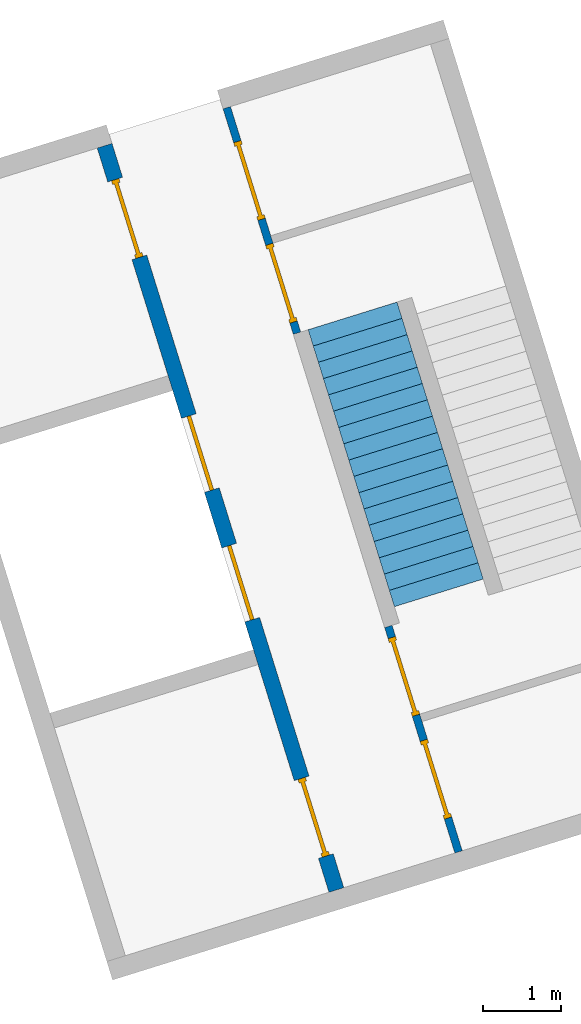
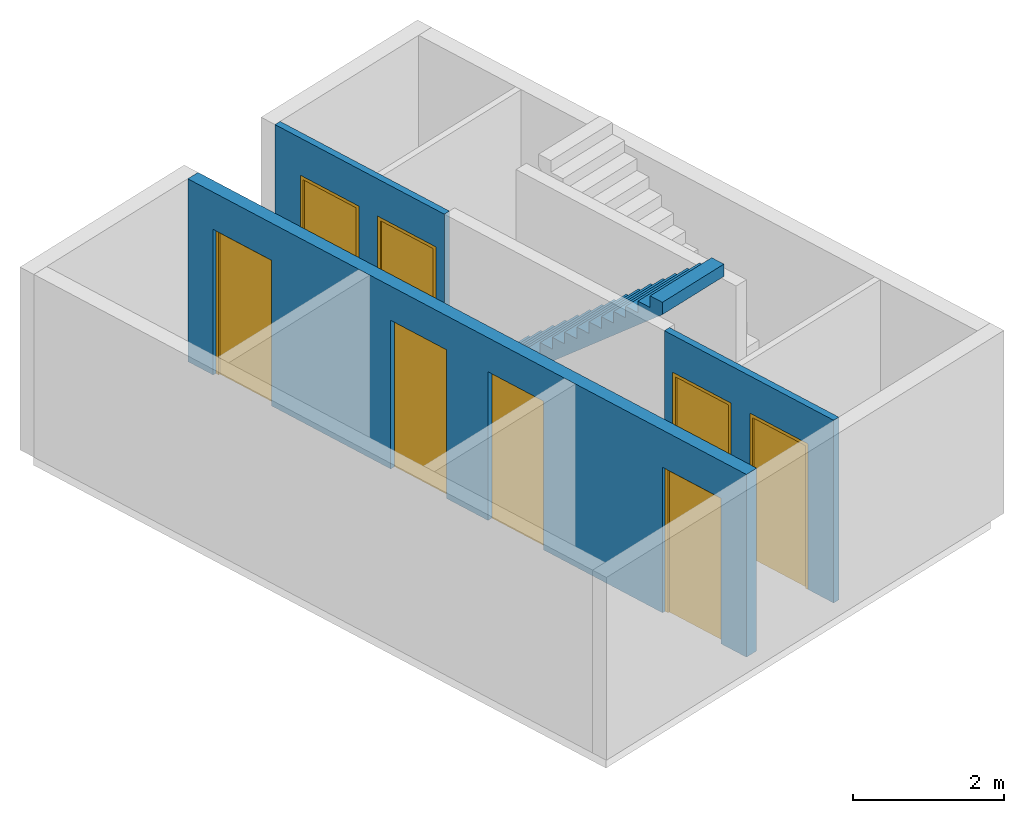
# One storey, part 2 of 3: 8 doors, 3 walls, 1 stair flight, 8 openings, 1 element without a shape of its own.
"""IFC4 building model written with IfcOpenShell, lengths in metres."""

from ifc_helpers import new_model, entity, si_unit, converted_unit, direction, frame, origin, place, context, subcontext, project, spatial, indexed_curve, outline, extrude, polygons, source, transform, mapped, material, constituent, constituent_set, type_object, type_shapes, element, fill, aggregate, save


model = new_model("IFC4")

# Units and contexts
model_context = context("Model", 3, precision=1e-05, world=origin(), true_north=direction((6.12323399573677e-17, 1.0)))
body_context = subcontext(model_context, "Body", "Model", "MODEL_VIEW")
ifc_project = project(units=[si_unit("LENGTHUNIT", "METRE"), si_unit("AREAUNIT", "SQUARE_METRE"), si_unit("VOLUMEUNIT", "CUBIC_METRE"), converted_unit("PLANEANGLEUNIT", "DEGREE", entity("IfcPlaneAngleMeasure", 0.0174532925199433), si_unit("PLANEANGLEUNIT", "RADIAN"), dimensions=[0, 0, 0, 0, 0, 0, 0])], contexts=[model_context])

# Site, building, storey
site_placement = place(None, frame((13.1347999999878, 11.9886000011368, 0.0), z_axis=(0.0, 0.0, 1.0), x_axis=(0.954770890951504, 0.297342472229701, 0.0)))
site = spatial("IfcSite", under=ifc_project, at=site_placement, Name="Schiehaven", CompositionType="ELEMENT")
building_placement = place(site_placement, origin())
building = spatial("IfcBuilding", under=site, at=building_placement, Name="VORM huis", CompositionType="ELEMENT")
storey_placement = place(building_placement, frame((0.0, 0.0, -3.2)))
storey = spatial("IfcBuildingStorey", under=building, at=storey_placement, Name="-1 kelder", CompositionType="ELEMENT", Elevation=-3.2)

# Wall, openings, doors
ifc_material_1 = material(Name="beton_gewapend_prefab-element", Category="Miscellaneous")
wall_type_1 = type_object("IfcWallType", Name="Basic Wall:28_WA_skelet_wand 200mm_gen", PredefinedType="STANDARD")
wall_1_placement = place(storey_placement, frame((15.475, 12.025, 0.0), z_axis=(0.0, 0.0, 1.0), x_axis=(0.0, 1.0, 0.0)))
wall_1 = element("IfcWall", 1, at=wall_1_placement, inside=storey, type_object=wall_type_1, material=ifc_material_1, Name="Constructieve wand", ObjectType="Wand", PredefinedType="NOTDEFINED", context=body_context, shape_type="Tessellation", body=[
    polygons([(6.39999999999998, -0.1, 0.0), (8.54249999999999, -0.100000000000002, 0.0), (8.54249999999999, -0.100000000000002, 2.34999999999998), (9.59249999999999, -0.1, 2.34999999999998), (9.59249999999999, -0.1, 0.0), (10.05, -0.1, 0.0), (10.05, -0.1, 2.95), (0.0, -0.100000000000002, 2.95), (0.0, -0.100000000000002, 0.0), (0.457499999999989, -0.100000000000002, 0.0), (0.457499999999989, -0.100000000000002, 2.34999999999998), (1.50749999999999, -0.1, 2.34999999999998), (1.50749999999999, -0.1, 0.0), (3.64999999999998, -0.100000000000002, 0.0), (3.64999999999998, -0.100000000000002, 2.39999999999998), (4.64999999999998, -0.100000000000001, 2.39999999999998), (4.64999999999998, -0.100000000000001, 0.0), (5.39999999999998, -0.100000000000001, 0.0), (5.39999999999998, -0.100000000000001, 2.39999999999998), (6.39999999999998, -0.100000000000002, 2.39999999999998), (8.54249999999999, 0.0999999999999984, 2.34999999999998), (8.54249999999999, 0.0999999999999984, 0.0), (6.97499999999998, 0.0999999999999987, 0.0), (6.77499999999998, 0.0999999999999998, 0.0), (6.39999999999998, 0.0999999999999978, 0.0), (6.39999999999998, 0.0999999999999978, 2.39999999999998), (5.39999999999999, 0.0999999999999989, 2.39999999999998), (5.39999999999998, 0.0999999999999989, 0.0), (4.64999999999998, 0.100000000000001, 0.0), (4.64999999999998, 0.100000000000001, 2.39999999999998), (3.64999999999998, 0.0999999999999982, 2.39999999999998), (3.64999999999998, 0.0999999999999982, 0.0), (3.27499999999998, 0.0999999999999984, 0.0), (3.07499999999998, 0.0999999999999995, 0.0), (1.50749999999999, 0.100000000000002, 0.0), (1.50749999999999, 0.100000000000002, 2.34999999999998), (0.457499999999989, 0.0999999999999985, 2.34999999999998), (0.457499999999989, 0.0999999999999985, 0.0), (0.0, 0.0999999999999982, 0.0), (0.0, 0.0999999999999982, 2.95), (3.07499999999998, 0.0999999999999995, 2.95), (3.27499999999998, 0.0999999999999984, 2.95), (6.77499999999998, 0.0999999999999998, 2.95), (6.97499999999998, 0.0999999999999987, 2.95), (10.05, 0.0999999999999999, 2.95), (10.05, 0.0999999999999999, 0.0), (9.59249999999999, 0.0999999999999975, 0.0), (9.59249999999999, 0.0999999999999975, 2.34999999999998)], [[[1, 2, 3, 4, 5, 6, 7, 8, 9, 10, 11, 12, 13, 14, 15, 16, 17, 18, 19, 20]], [[21, 22, 23, 24, 25, 26, 27, 28, 29, 30, 31, 32, 33, 34, 35, 36, 37, 38, 39, 40, 41, 42, 43, 44, 45, 46, 47, 48]], [[10, 9, 39, 38]], [[7, 6, 46, 45]], [[8, 7, 45, 44, 43, 42, 41, 40]], [[9, 8, 40, 39]], [[16, 30, 29, 17]], [[31, 15, 14, 32]], [[30, 16, 15, 31]], [[20, 26, 25, 1]], [[27, 19, 18, 28]], [[26, 20, 19, 27]], [[38, 37, 11, 10]], [[36, 35, 13, 12]], [[37, 36, 12, 11]], [[5, 4, 48, 47]], [[3, 2, 22, 21]], [[4, 3, 21, 48]], [[14, 13, 35, 34, 33, 32]], [[17, 29, 28, 18]], [[47, 46, 6, 5]], [[25, 24, 23, 22, 2, 1]]], closed=True),
])
opening_1_placement = place(wall_1_placement, frame((-12.025, 15.475, 0.0), z_axis=(0.0, 0.0, 1.0), x_axis=(0.0, -1.0, 0.0)))
opening_1 = element("IfcOpeningElement", 2, at=opening_1_placement, cuts=wall_1, Name="Brandweerlift", PredefinedType="OPENING", context=body_context, shape_type="SweptSolid", body=[
    extrude(outline(indexed_curve([(-1.19999999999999, -0.500000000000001), (1.19999999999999, -0.500000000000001), (1.19999999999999, 0.499999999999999), (-1.19999999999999, 0.499999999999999), (-1.19999999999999, -0.500000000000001)], self_intersect=False)), frame((15.7436720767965, 16.175, 1.19999999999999), z_axis=(-1.0, 0.0, 0.0), x_axis=(0.0, 0.0, -1.0)), (0.0, 0.0, 1.0), 0.756310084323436),
])
opening_2_placement = place(wall_1_placement, frame((-12.025, 15.475, 0.0), z_axis=(0.0, 0.0, 1.0), x_axis=(0.0, -1.0, 0.0)))
opening_2 = element("IfcOpeningElement", 3, at=opening_2_placement, cuts=wall_1, Name="Brandweerlift", PredefinedType="OPENING", context=body_context, shape_type="SweptSolid", body=[
    extrude(outline(indexed_curve([(-1.19999999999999, -0.500000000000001), (1.19999999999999, -0.500000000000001), (1.19999999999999, 0.499999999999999), (-1.19999999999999, 0.499999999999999), (-1.19999999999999, -0.500000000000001)], self_intersect=False)), frame((15.7436720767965, 17.925, 1.19999999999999), z_axis=(-1.0, 0.0, 0.0), x_axis=(0.0, 0.0, -1.0)), (0.0, 0.0, 1.0), 0.756310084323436),
])
opening_3_placement = place(wall_1_placement, frame((1.50749999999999, 0.0999999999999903, 0.0)))
opening_3 = element("IfcOpeningElement", 4, at=opening_3_placement, cuts=wall_1, Name="Vluchtdeur", PredefinedType="OPENING", context=body_context, shape_type="SweptSolid", body=[
    extrude(outline(indexed_curve([(2.34999999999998, 1.05), (0.0, 1.05), (0.0, 1.35358391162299e-15), (2.34999999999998, 1.35358391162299e-15), (2.34999999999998, 1.05)], self_intersect=False)), frame((0.0, 0.0, 0.0), z_axis=(0.0, -1.0, 0.0), x_axis=(0.0, 0.0, 1.0)), (0.0, 0.0, 1.0), 0.2),
])
opening_4_placement = place(wall_1_placement, frame((9.59249999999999, 0.099999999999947, 0.0)))
opening_4 = element("IfcOpeningElement", 5, at=opening_4_placement, cuts=wall_1, Name="Vluchtdeur", PredefinedType="OPENING", context=body_context, shape_type="SweptSolid", body=[
    extrude(outline(indexed_curve([(2.34999999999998, -9.04067903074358e-32), (2.34999999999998, 1.05), (0.0, 1.05), (0.0, -9.04067903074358e-32), (2.34999999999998, -9.04067903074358e-32)], self_intersect=False)), frame((0.0, 0.0, 0.0), z_axis=(0.0, -1.0, 0.0), x_axis=(0.0, 0.0, 1.0)), (0.0, 0.0, 1.0), 0.2),
])
ifc_material_2 = material(Name="metaal_aluminium_ntb", Category="Miscellaneous")
door_type_1 = type_object("IfcDoorType", Name="66_WI_liftdeur:brandweerlift - eenzijdig toegankelijk", OperationType="NOTDEFINED", PredefinedType="DOOR", material=ifc_material_2)
shared_shape_1 = source(origin(), body_context, "Body", "SweptSolid", [
    extrude(outline(indexed_curve([(-0.0250000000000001, -0.25), (0.0249999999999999, -0.25), (0.0250000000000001, 0.25), (-0.0249999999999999, 0.25), (-0.0250000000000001, -0.25)], self_intersect=False)), frame((0.250000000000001, 0.487638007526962, 0.0), z_axis=(0.0, 0.0, 1.0), x_axis=(0.0, 1.0, 0.0)), (0.0, 0.0, 1.0), 2.39999999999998),
    extrude(outline(indexed_curve([(-0.0250000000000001, -0.25), (0.0249999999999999, -0.25), (0.0250000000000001, 0.25), (-0.0249999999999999, 0.25), (-0.0250000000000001, -0.25)], self_intersect=False)), frame((0.750000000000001, 0.48763800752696, 0.0), z_axis=(0.0, 0.0, 1.0), x_axis=(0.0, 1.0, 0.0)), (0.0, 0.0, 1.0), 2.39999999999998),
])
type_shapes(door_type_1, [shared_shape_1])
door_1_placement = place(opening_1_placement, frame((14.9873619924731, 16.675, 0.0), z_axis=(0.0, 0.0, 1.0), x_axis=(0.0, -1.0, 0.0)))
door_1 = element("IfcDoor", 6, at=door_1_placement, inside=storey, type_object=door_type_1, material=ifc_material_2, Name="Brandweerlift", ObjectType="Transport", OperationType="NOTDEFINED", OverallHeight=2.39999999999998, OverallWidth=1.0, PredefinedType="DOOR", context=body_context, shape_type="MappedRepresentation", body=[
    mapped(shared_shape_1, transform((0.0, 0.0, 0.0), scale=1.0)),
])
fill(opening_1, door_1)
door_2_placement = place(opening_2_placement, frame((14.9873619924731, 18.425, 0.0), z_axis=(0.0, 0.0, 1.0), x_axis=(0.0, -1.0, 0.0)))
door_2 = element("IfcDoor", 7, at=door_2_placement, inside=storey, type_object=door_type_1, material=ifc_material_2, Name="Brandweerlift", ObjectType="Transport", OperationType="NOTDEFINED", OverallHeight=2.39999999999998, OverallWidth=1.0, PredefinedType="DOOR", context=body_context, shape_type="MappedRepresentation", body=[
    mapped(shared_shape_1, transform((0.0, 0.0, 0.0), scale=1.0)),
])
fill(opening_2, door_2)
ifc_material_3 = material(Name="PD_a_binnenwandopeningen", Category="Miscellaneous")
ifc_constituent_1 = constituent(ifc_material_3, Name="PD_a_binnenwandopeningen", Category="Miscellaneous")
ifc_constituent_2 = constituent(ifc_material_2, Name="metaal_aluminium_ntb", Category="Miscellaneous")
ifc_constituent_set_1 = constituent_set(constituents=[ifc_constituent_1, ifc_constituent_2])
ifc_constituent_3 = constituent(ifc_material_3, Name="PD_a_binnenwandopeningen", Category="Miscellaneous")
ifc_constituent_4 = constituent(ifc_material_2, Name="Panel", Category="Miscellaneous")
ifc_constituent_set_2 = constituent_set(constituents=[ifc_constituent_3, ifc_constituent_4])
door_type_2 = type_object("IfcDoorType", Name="32_DO_binnendeur enkel:binnendeur zelfsluitend 30min", OperationType="NOTDEFINED", PredefinedType="DOOR", material=ifc_constituent_set_2)
shared_shape_2 = source(origin(), body_context, "Body", "SweptSolid", [
    extrude(outline(indexed_curve([(-1.16249999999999, -0.525), (1.18749999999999, -0.525000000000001), (1.18749999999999, 0.525), (-1.16249999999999, 0.525), (-1.16249999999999, 0.475), (1.13749999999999, 0.475), (1.13749999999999, -0.475), (-1.16249999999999, -0.475), (-1.16249999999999, -0.525)], self_intersect=False)), frame((0.525000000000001, 0.0499999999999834, 1.16249999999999), z_axis=(0.0, 1.0, 0.0), x_axis=(0.0, 0.0, 1.0)), (0.0, 0.0, 1.0), 0.1),
    extrude(outline(indexed_curve([(-0.025, -0.475), (0.025, -0.475), (0.025, 0.475), (-0.025, 0.475), (-0.025, -0.475)], self_intersect=False)), frame((0.525000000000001, 0.0999999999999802, 0.0), z_axis=(0.0, 0.0, 1.0), x_axis=(0.0, 1.0, 0.0)), (0.0, 0.0, 1.0), 2.29999999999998),
])
type_shapes(door_type_2, [shared_shape_2])
door_3_placement = place(opening_3_placement, frame((0.0, 0.0, 0.0), z_axis=(0.0, 0.0, 1.0), x_axis=(-1.0, 0.0, 0.0)))
door_3 = element("IfcDoor", 8, at=door_3_placement, inside=storey, type_object=door_type_2, material=ifc_constituent_set_1, Name="Vluchtdeur", ObjectType="Deur", OperationType="NOTDEFINED", OverallHeight=2.34999999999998, OverallWidth=1.05, PredefinedType="DOOR", context=body_context, shape_type="MappedRepresentation", body=[
    mapped(shared_shape_2, transform((0.0, 0.0, 0.0), scale=1.0)),
])
fill(opening_3, door_3)
ifc_constituent_5 = constituent(ifc_material_3, Name="PD_a_binnenwandopeningen", Category="Miscellaneous")
ifc_constituent_6 = constituent(ifc_material_2, Name="metaal_aluminium_ntb", Category="Miscellaneous")
ifc_constituent_set_3 = constituent_set(constituents=[ifc_constituent_5, ifc_constituent_6])
ifc_constituent_7 = constituent(ifc_material_3, Name="PD_a_binnenwandopeningen", Category="Miscellaneous")
ifc_constituent_8 = constituent(ifc_material_2, Name="Panel", Category="Miscellaneous")
ifc_constituent_set_4 = constituent_set(constituents=[ifc_constituent_7, ifc_constituent_8])
door_type_3 = type_object("IfcDoorType", Name="32_DO_binnendeur enkel:binnendeur zelfsluitend 30min", OperationType="NOTDEFINED", PredefinedType="DOOR", material=ifc_constituent_set_4)
shared_shape_3 = source(origin(), body_context, "Body", "SweptSolid", [
    extrude(outline(indexed_curve([(0.475, -1.16249999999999), (0.525, -1.16249999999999), (0.525, 1.18749999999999), (-0.525, 1.18749999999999), (-0.525, -1.16249999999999), (-0.475, -1.16249999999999), (-0.475, 1.13749999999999), (0.475, 1.13749999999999), (0.475, -1.16249999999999)], self_intersect=False)), frame((0.525000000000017, 0.149999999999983, 1.16249999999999), z_axis=(0.0, -1.0, 0.0), x_axis=(1.0, 0.0, 0.0)), (0.0, 0.0, 1.0), 0.1),
    extrude(outline(indexed_curve([(-0.475, -0.025), (0.475, -0.025), (0.475, 0.025), (-0.475, 0.025), (-0.475, -0.025)], self_intersect=False)), frame((0.525000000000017, 0.0999999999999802, 0.0)), (0.0, 0.0, 1.0), 2.29999999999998),
])
type_shapes(door_type_3, [shared_shape_3])
door_4_placement = place(opening_4_placement, frame((0.0, 0.0, 0.0), z_axis=(0.0, 0.0, 1.0), x_axis=(-1.0, 0.0, 0.0)))
door_4 = element("IfcDoor", 9, at=door_4_placement, inside=storey, type_object=door_type_3, material=ifc_constituent_set_3, Name="Vluchtdeur", ObjectType="Deur", OperationType="NOTDEFINED", OverallHeight=2.34999999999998, OverallWidth=1.05, PredefinedType="DOOR", context=body_context, shape_type="MappedRepresentation", body=[
    mapped(shared_shape_3, transform((0.0, 0.0, 0.0), scale=1.0)),
])
fill(opening_4, door_4)

ifc_material_4 = material(Name="ntb_ntb_ntb", Category="Miscellaneous")
wall_type_2 = type_object("IfcWallType", Name="Basic Wall:22_WA_afbouw_binnenwand 100mm_gen", PredefinedType="STANDARD")
wall_2_placement = place(storey_placement, frame((17.1250000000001, 12.025, 0.0), z_axis=(0.0, 0.0, 1.0), x_axis=(0.0, 1.0, 0.0)))
wall_2 = element("IfcWall", 10, at=wall_2_placement, inside=storey, type_object=wall_type_2, material=ifc_material_4, Name="Binnenwand", ObjectType="Wand", PredefinedType="NOTDEFINED", context=body_context, shape_type="Tessellation", body=[
    polygons([(0.0, -0.0500000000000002, 0.0), (0.457499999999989, -0.0500000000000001, 0.0), (0.457499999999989, -0.0500000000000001, 2.34999999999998), (1.50749999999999, -0.0500000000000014, 2.34999999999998), (1.50749999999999, -0.0500000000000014, 0.0), (1.745, -0.0500000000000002, 0.0), (1.845, -0.0499999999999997, 0.0), (1.845, -0.0500000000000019, 2.34999999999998), (2.895, -0.050000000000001, 2.34999999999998), (2.895, -0.050000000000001, 0.0), (3.04499999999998, -0.0500000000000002, 0.0), (3.04499999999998, -0.0500000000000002, 2.95), (1.845, -0.0500000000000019, 2.95), (1.745, -0.0500000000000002, 2.95), (0.0, -0.0500000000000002, 2.95), (0.457499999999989, 0.0499999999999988, 2.34999999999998), (0.457499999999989, 0.0499999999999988, 0.0), (0.0, 0.0499999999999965, 0.0), (0.0, 0.0499999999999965, 2.95), (3.04499999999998, 0.0499999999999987, 2.95), (3.04499999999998, 0.0499999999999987, 0.0), (2.895, 0.0499999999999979, 0.0), (2.895, 0.0499999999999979, 2.34999999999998), (1.845, 0.0499999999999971, 2.34999999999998), (1.845, 0.0499999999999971, 0.0), (1.50749999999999, 0.0499999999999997, 0.0), (1.50749999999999, 0.0499999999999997, 2.34999999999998)], [[[1, 2, 3, 4, 5, 6, 7, 8, 9, 10, 11, 12, 13, 14, 15]], [[16, 17, 18, 19, 20, 21, 22, 23, 24, 25, 26, 27]], [[18, 17, 2, 1]], [[12, 11, 21, 20]], [[15, 14, 13, 12, 20, 19]], [[1, 15, 19, 18]], [[24, 8, 7, 25]], [[9, 23, 22, 10]], [[8, 24, 23, 9]], [[5, 4, 27, 26]], [[3, 2, 17, 16]], [[4, 3, 16, 27]], [[26, 25, 7, 6, 5]], [[21, 11, 10, 22]]], closed=True),
])
opening_5_placement = place(wall_2_placement, frame((2.895, 0.0499999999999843, 0.0)))
opening_5 = element("IfcOpeningElement", 11, at=opening_5_placement, cuts=wall_2, Name="Vluchtdeur", PredefinedType="OPENING", context=body_context, shape_type="SweptSolid", body=[
    extrude(outline(indexed_curve([(2.34999999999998, 1.05), (0.0, 1.05), (0.0, 1.08286712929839e-15), (2.34999999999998, 1.08286712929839e-15), (2.34999999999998, 1.05)], self_intersect=False)), frame((0.0, 0.0, 0.0), z_axis=(0.0, -1.0, 0.0), x_axis=(0.0, 0.0, 1.0)), (0.0, 0.0, 1.0), 0.1),
])
opening_6_placement = place(wall_2_placement, frame((0.457499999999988, -0.0500000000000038, 0.0)))
opening_6 = element("IfcOpeningElement", 12, at=opening_6_placement, cuts=wall_2, Name="Vluchtdeur", PredefinedType="OPENING", context=body_context, shape_type="SweptSolid", body=[
    extrude(outline(indexed_curve([(2.34999999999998, 1.05), (0.0, 1.05), (0.0, 1.35358391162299e-15), (2.34999999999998, 1.35358391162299e-15), (2.34999999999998, 1.05)], self_intersect=False)), frame((0.0, 0.0, 0.0), z_axis=(0.0, 1.0, 0.0), x_axis=(0.0, 0.0, 1.0)), (0.0, 0.0, 1.0), 0.1),
])
ifc_constituent_9 = constituent(ifc_material_3, Name="PD_a_binnenwandopeningen", Category="Miscellaneous")
ifc_constituent_10 = constituent(ifc_material_2, Name="metaal_aluminium_ntb", Category="Miscellaneous")
ifc_constituent_set_5 = constituent_set(constituents=[ifc_constituent_9, ifc_constituent_10])
ifc_constituent_11 = constituent(ifc_material_3, Name="PD_a_binnenwandopeningen", Category="Miscellaneous")
ifc_constituent_12 = constituent(ifc_material_2, Name="Panel", Category="Miscellaneous")
ifc_constituent_set_6 = constituent_set(constituents=[ifc_constituent_11, ifc_constituent_12])
door_type_4 = type_object("IfcDoorType", Name="32_DO_binnendeur enkel:binnendeur zelfsluitend 30min", OperationType="NOTDEFINED", PredefinedType="DOOR", material=ifc_constituent_set_6)
shared_shape_4 = source(origin(), body_context, "Body", "SweptSolid", [
    extrude(outline(indexed_curve([(-1.16249999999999, -0.525000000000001), (1.18749999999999, -0.525), (1.18749999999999, 0.525), (-1.16249999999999, 0.525), (-1.16249999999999, 0.475), (1.13749999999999, 0.475), (1.13749999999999, -0.475), (-1.16249999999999, -0.475), (-1.16249999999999, -0.525000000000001)], self_intersect=False)), frame((0.525000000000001, 0.0, 1.16249999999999), z_axis=(0.0, 1.0, 0.0), x_axis=(0.0, 0.0, 1.0)), (0.0, 0.0, 1.0), 0.1),
    extrude(outline(indexed_curve([(-0.025, -0.475), (0.025, -0.475), (0.025, 0.475), (-0.025, 0.475), (-0.025, -0.475)], self_intersect=False)), frame((0.525000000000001, 0.0499999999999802, 0.0), z_axis=(0.0, 0.0, 1.0), x_axis=(0.0, 1.0, 0.0)), (0.0, 0.0, 1.0), 2.29999999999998),
])
type_shapes(door_type_4, [shared_shape_4])
door_5_placement = place(opening_5_placement, frame((0.0, 0.0, 0.0), z_axis=(0.0, 0.0, 1.0), x_axis=(-1.0, 0.0, 0.0)))
door_5 = element("IfcDoor", 13, at=door_5_placement, inside=storey, type_object=door_type_4, material=ifc_constituent_set_5, Name="Vluchtdeur", ObjectType="Deur", OperationType="NOTDEFINED", OverallHeight=2.34999999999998, OverallWidth=1.05, PredefinedType="DOOR", context=body_context, shape_type="MappedRepresentation", body=[
    mapped(shared_shape_4, transform((0.0, 0.0, 0.0), scale=1.0)),
])
fill(opening_5, door_5)
ifc_constituent_13 = constituent(ifc_material_3, Name="PD_a_binnenwandopeningen", Category="Miscellaneous")
ifc_constituent_14 = constituent(ifc_material_2, Name="metaal_aluminium_ntb", Category="Miscellaneous")
ifc_constituent_set_7 = constituent_set(constituents=[ifc_constituent_13, ifc_constituent_14])
door_6_placement = place(opening_6_placement, origin())
door_6 = element("IfcDoor", 14, at=door_6_placement, inside=storey, type_object=door_type_4, material=ifc_constituent_set_7, Name="Vluchtdeur", ObjectType="Deur", OperationType="NOTDEFINED", OverallHeight=2.34999999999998, OverallWidth=1.05, PredefinedType="DOOR", context=body_context, shape_type="MappedRepresentation", body=[
    mapped(shared_shape_4, transform((0.0, 0.0, 0.0), scale=1.0)),
])
fill(opening_6, door_6)

wall_3_placement = place(storey_placement, frame((17.1250000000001, 22.075, 0.0), z_axis=(0.0, 0.0, 1.0), x_axis=(0.0, -1.0, 0.0)))
wall_3 = element("IfcWall", 15, at=wall_3_placement, inside=storey, type_object=wall_type_2, material=ifc_material_4, Name="Binnenwand", ObjectType="Wand", PredefinedType="NOTDEFINED", context=body_context, shape_type="Tessellation", body=[
    polygons([(0.0, -0.0500000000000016, 0.0), (0.45749999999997, -0.0500000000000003, 0.0), (0.45749999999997, -0.0500000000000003, 2.34999999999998), (1.50749999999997, -0.0500000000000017, 2.34999999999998), (1.50749999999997, -0.0500000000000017, 0.0), (1.84499999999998, -0.0500000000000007, 0.0), (1.84499999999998, -0.0500000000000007, 2.34999999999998), (2.89499999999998, -0.050000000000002, 2.34999999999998), (2.89499999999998, -0.050000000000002, 0.0), (3.04500000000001, -0.0500000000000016, 0.0), (3.04500000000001, -0.0500000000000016, 2.95), (0.0, -0.0500000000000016, 2.95), (0.45749999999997, 0.0500000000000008, 2.34999999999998), (0.45749999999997, 0.0500000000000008, 0.0), (0.0, 0.0499999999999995, 0.0), (0.0, 0.0499999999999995, 2.95), (1.745, 0.0500000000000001, 2.95), (1.845, 0.0500000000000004, 2.95), (3.04500000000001, 0.0499999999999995, 2.95), (3.04500000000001, 0.0499999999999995, 0.0), (2.89499999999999, 0.049999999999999, 0.0), (2.89499999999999, 0.049999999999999, 2.34999999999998), (1.84499999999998, 0.0500000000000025, 2.34999999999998), (1.84499999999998, 0.0500000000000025, 0.0), (1.745, 0.0500000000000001, 0.0), (1.50749999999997, 0.0500000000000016, 0.0), (1.50749999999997, 0.0500000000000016, 2.34999999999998)], [[[1, 2, 3, 4, 5, 6, 7, 8, 9, 10, 11, 12]], [[13, 14, 15, 16, 17, 18, 19, 20, 21, 22, 23, 24, 25, 26, 27]], [[15, 14, 2, 1]], [[11, 10, 20, 19]], [[12, 11, 19, 18, 17, 16]], [[1, 12, 16, 15]], [[23, 7, 6, 24]], [[7, 23, 22, 8]], [[8, 22, 21, 9]], [[5, 4, 27, 26]], [[3, 2, 14, 13]], [[4, 3, 13, 27]], [[26, 25, 24, 6, 5]], [[20, 10, 9, 21]]], closed=True),
])
opening_7_placement = place(wall_3_placement, frame((1.84499999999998, -0.050000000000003, 0.0)))
opening_7 = element("IfcOpeningElement", 16, at=opening_7_placement, cuts=wall_3, Name="Vluchtdeur", PredefinedType="OPENING", context=body_context, shape_type="SweptSolid", body=[
    extrude(outline(indexed_curve([(2.34999999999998, 1.05), (0.0, 1.05), (0.0, -3.82683895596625e-30), (2.34999999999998, -3.82683895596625e-30), (2.34999999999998, 1.05)], self_intersect=False)), frame((0.0, 0.0, 0.0), z_axis=(0.0, 1.0, 0.0), x_axis=(0.0, 0.0, 1.0)), (0.0, 0.0, 1.0), 0.1),
])
opening_8_placement = place(wall_3_placement, frame((1.50749999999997, 0.0499999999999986, 0.0)))
opening_8 = element("IfcOpeningElement", 17, at=opening_8_placement, cuts=wall_3, Name="Vluchtdeur", PredefinedType="OPENING", context=body_context, shape_type="SweptSolid", body=[
    extrude(outline(indexed_curve([(2.34999999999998, -3.82683895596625e-30), (2.34999999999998, 1.05), (0.0, 1.05), (0.0, -3.82683895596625e-30), (2.34999999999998, -3.82683895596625e-30)], self_intersect=False)), frame((0.0, 0.0, 0.0), z_axis=(0.0, -1.0, 0.0), x_axis=(0.0, 0.0, 1.0)), (0.0, 0.0, 1.0), 0.1),
])
ifc_constituent_15 = constituent(ifc_material_3, Name="PD_a_binnenwandopeningen", Category="Miscellaneous")
ifc_constituent_16 = constituent(ifc_material_2, Name="metaal_aluminium_ntb", Category="Miscellaneous")
ifc_constituent_set_8 = constituent_set(constituents=[ifc_constituent_15, ifc_constituent_16])
door_7_placement = place(opening_7_placement, origin())
door_7 = element("IfcDoor", 18, at=door_7_placement, inside=storey, type_object=door_type_4, material=ifc_constituent_set_8, Name="Vluchtdeur", ObjectType="Deur", OperationType="NOTDEFINED", OverallHeight=2.34999999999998, OverallWidth=1.05, PredefinedType="DOOR", context=body_context, shape_type="MappedRepresentation", body=[
    mapped(shared_shape_4, transform((0.0, 0.0, 0.0), scale=1.0)),
])
fill(opening_7, door_7)
ifc_constituent_17 = constituent(ifc_material_3, Name="PD_a_binnenwandopeningen", Category="Miscellaneous")
ifc_constituent_18 = constituent(ifc_material_2, Name="metaal_aluminium_ntb", Category="Miscellaneous")
ifc_constituent_set_9 = constituent_set(constituents=[ifc_constituent_17, ifc_constituent_18])
ifc_constituent_19 = constituent(ifc_material_3, Name="PD_a_binnenwandopeningen", Category="Miscellaneous")
ifc_constituent_20 = constituent(ifc_material_2, Name="Panel", Category="Miscellaneous")
ifc_constituent_set_10 = constituent_set(constituents=[ifc_constituent_19, ifc_constituent_20])
door_type_5 = type_object("IfcDoorType", Name="32_DO_binnendeur enkel:binnendeur zelfsluitend 30min", OperationType="NOTDEFINED", PredefinedType="DOOR", material=ifc_constituent_set_10)
shared_shape_5 = source(origin(), body_context, "Body", "SweptSolid", [
    extrude(outline(indexed_curve([(0.475, -1.16249999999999), (0.525, -1.16249999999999), (0.525, 1.18749999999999), (-0.525, 1.18749999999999), (-0.525, -1.16249999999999), (-0.475, -1.16249999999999), (-0.475, 1.13749999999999), (0.475, 1.13749999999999), (0.475, -1.16249999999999)], self_intersect=False)), frame((0.525000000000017, 0.100000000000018, 1.16249999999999), z_axis=(0.0, -1.0, 0.0), x_axis=(1.0, 0.0, 0.0)), (0.0, 0.0, 1.0), 0.1),
    extrude(outline(indexed_curve([(-0.475, -0.025), (0.475, -0.025), (0.475, 0.025), (-0.475, 0.025), (-0.475, -0.025)], self_intersect=False)), frame((0.525000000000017, 0.0499999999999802, 0.0)), (0.0, 0.0, 1.0), 2.29999999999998),
])
type_shapes(door_type_5, [shared_shape_5])
door_8_placement = place(opening_8_placement, frame((0.0, 0.0, 0.0), z_axis=(0.0, 0.0, 1.0), x_axis=(-1.0, 0.0, 0.0)))
door_8 = element("IfcDoor", 19, at=door_8_placement, inside=storey, type_object=door_type_5, material=ifc_constituent_set_9, Name="Vluchtdeur", ObjectType="Deur", OperationType="NOTDEFINED", OverallHeight=2.34999999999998, OverallWidth=1.05, PredefinedType="DOOR", context=body_context, shape_type="MappedRepresentation", body=[
    mapped(shared_shape_5, transform((0.0, 0.0, 0.0), scale=1.0)),
])
fill(opening_8, door_8)

# Stair, stair flight
stair_type = type_object("IfcStairType", Name="Trap", PredefinedType="STRAIGHT_RUN_STAIR")
stair_placement = place(storey_placement, origin())
stair = element("IfcStair", 20, at=stair_placement, inside=storey, type_object=stair_type, Name="Hoofdtrap", ObjectType="Trap", PredefinedType="STRAIGHT_RUN_STAIR")
stair_flight_type = type_object("IfcStairFlightType", Name="Monolithic Run:NLRS_24_STRR_trap-beton prefab-monolithisch-recht_gen_rsf", PredefinedType="STRAIGHT")
stair_flight_placement = place(stair_placement, frame((17.2750000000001, 15.29, 0.0)))
stair_flight = element("IfcStairFlight", 21, at=stair_flight_placement, type_object=stair_flight_type, material=ifc_material_1, Name="Hoofdtrap Run 1", ObjectType="Monolithic Run:NLRS_24_STRR_trap-beton prefab-monolithisch-recht_gen_rsf", PredefinedType="STRAIGHT", context=body_context, shape_type="Tessellation", body=[
    polygons([(1.20000000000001, 3.52, 0.188235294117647), (1.20000000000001, 3.74, 0.188235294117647), (7.105427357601e-15, 3.74, 0.188235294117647), (7.105427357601e-15, 3.52, 0.188235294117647), (1.20000000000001, 3.52, 0.0), (1.20000000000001, 3.74, 0.0), (7.105427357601e-15, 3.74, 0.0), (7.105427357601e-15, 3.52, 0.0), (1.20000000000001, 3.3, 0.376470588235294), (1.20000000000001, 3.52, 0.376470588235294), (7.105427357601e-15, 3.52, 0.376470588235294), (7.105427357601e-15, 3.3, 0.376470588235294), (1.20000000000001, 3.3, 0.179057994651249), (1.20000000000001, 3.50927403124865, 0.0), (7.105427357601e-15, 3.50927403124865, -4.44089209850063e-16), (7.105427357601e-15, 3.3, 0.179057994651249), (1.20000000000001, 3.08, 0.564705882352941), (1.2, 3.29999999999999, 0.564705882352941), (7.105427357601e-15, 3.29999999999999, 0.564705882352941), (7.105427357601e-15, 3.08, 0.564705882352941), (1.2, 3.07999999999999, 0.367293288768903), (7.105427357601e-15, 3.07999999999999, 0.367293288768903), (1.20000000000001, 2.86, 0.752941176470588), (1.2, 3.08, 0.752941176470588), (7.105427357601e-15, 3.08, 0.752941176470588), (7.105427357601e-15, 2.86, 0.752941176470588), (1.2, 2.86, 0.555528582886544), (7.105427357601e-15, 2.86, 0.555528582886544), (1.20000000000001, 2.64, 0.941176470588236), (1.2, 2.86, 0.941176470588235), (7.105427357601e-15, 2.86, 0.941176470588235), (7.105427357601e-15, 2.64, 0.941176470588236), (1.2, 2.64, 0.743763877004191), (7.105427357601e-15, 2.64, 0.743763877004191), (1.20000000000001, 2.42, 1.12941176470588), (1.2, 2.64, 1.12941176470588), (7.105427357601e-15, 2.64, 1.12941176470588), (7.105427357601e-15, 2.42, 1.12941176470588), (1.2, 2.42, 0.931999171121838), (7.105427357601e-15, 2.42, 0.931999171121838), (1.20000000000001, 2.19999999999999, 1.31764705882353), (1.2, 2.42, 1.31764705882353), (7.105427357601e-15, 2.42, 1.31764705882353), (7.105427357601e-15, 2.19999999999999, 1.31764705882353), (1.2, 2.2, 1.12023446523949), (7.105427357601e-15, 2.2, 1.12023446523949), (1.20000000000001, 1.98, 1.50588235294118), (1.2, 2.19999999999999, 1.50588235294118), (7.105427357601e-15, 2.19999999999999, 1.50588235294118), (7.105427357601e-15, 1.98, 1.50588235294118), (1.2, 1.97999999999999, 1.30846975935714), (7.105427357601e-15, 1.97999999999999, 1.30846975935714), (1.2, 1.76, 1.69411764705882), (1.2, 1.98, 1.69411764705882), (3.5527136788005e-15, 1.98, 1.69411764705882), (3.5527136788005e-15, 1.76, 1.69411764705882), (1.2, 1.76, 1.49670505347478), (3.5527136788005e-15, 1.76, 1.49670505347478), (1.2, 1.54, 1.88235294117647), (1.2, 1.76, 1.88235294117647), (3.5527136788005e-15, 1.76, 1.88235294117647), (3.5527136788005e-15, 1.54, 1.88235294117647), (1.2, 1.54, 1.68494034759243), (3.5527136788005e-15, 1.54, 1.68494034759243), (1.2, 1.32, 2.07058823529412), (1.2, 1.54, 2.07058823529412), (3.5527136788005e-15, 1.54, 2.07058823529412), (3.5527136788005e-15, 1.32, 2.07058823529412), (1.2, 1.32, 1.87317564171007), (3.5527136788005e-15, 1.32, 1.87317564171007), (1.2, 1.1, 2.25882352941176), (1.2, 1.32, 2.25882352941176), (3.5527136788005e-15, 1.32, 2.25882352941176), (3.5527136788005e-15, 1.1, 2.25882352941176), (1.2, 1.1, 2.06141093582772), (3.5527136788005e-15, 1.1, 2.06141093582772), (1.2, 0.879999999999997, 2.44705882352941), (1.2, 1.1, 2.44705882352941), (3.5527136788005e-15, 1.1, 2.44705882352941), (3.5527136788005e-15, 0.879999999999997, 2.44705882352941), (1.2, 0.880000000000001, 2.24964622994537), (3.5527136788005e-15, 0.880000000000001, 2.24964622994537), (1.2, 0.659999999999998, 2.63529411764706), (1.2, 0.879999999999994, 2.63529411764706), (3.5527136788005e-15, 0.879999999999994, 2.63529411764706), (3.5527136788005e-15, 0.659999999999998, 2.63529411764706), (1.2, 0.659999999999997, 2.43788152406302), (3.5527136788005e-15, 0.659999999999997, 2.43788152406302), (1.2, 0.44, 2.82352941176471), (1.2, 0.66, 2.82352941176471), (0.0, 0.66, 2.82352941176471), (0.0, 0.44, 2.82352941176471), (1.2, 0.440000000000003, 2.62611681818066), (0.0, 0.440000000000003, 2.62611681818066), (1.2, 0.220000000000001, 3.01176470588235), (1.2, 0.439999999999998, 3.01176470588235), (0.0, 0.439999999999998, 3.01176470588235), (0.0, 0.219999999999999, 3.01176470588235), (1.2, 0.220000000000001, 2.81435211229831), (0.0, 0.220000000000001, 2.81435211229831), (1.2, 0.0, 3.2), (1.2, 0.220000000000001, 3.2), (0.0, 0.220000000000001, 3.2), (0.0, 0.0, 3.2), (1.2, 0.0, 3.00258740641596), (0.0, 0.0, 3.00258740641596)], [[[1, 2, 3, 4]], [[2, 1, 5, 6]], [[3, 2, 6, 7]], [[4, 3, 7, 8]], [[9, 10, 11, 12]], [[5, 1, 10, 9, 13, 14]], [[1, 4, 11, 10]], [[4, 8, 15, 16, 12, 11]], [[17, 18, 19, 20]], [[18, 17, 21, 13, 9]], [[9, 12, 19, 18]], [[20, 19, 12, 16, 22]], [[23, 24, 25, 26]], [[24, 23, 27, 21, 17]], [[17, 20, 25, 24]], [[26, 25, 20, 22, 28]], [[29, 30, 31, 32]], [[30, 29, 33, 27, 23]], [[23, 26, 31, 30]], [[32, 31, 26, 28, 34]], [[35, 36, 37, 38]], [[36, 35, 39, 33, 29]], [[29, 32, 37, 36]], [[38, 37, 32, 34, 40]], [[41, 42, 43, 44]], [[42, 41, 45, 39, 35]], [[35, 38, 43, 42]], [[44, 43, 38, 40, 46]], [[47, 48, 49, 50]], [[48, 47, 51, 45, 41]], [[41, 44, 49, 48]], [[50, 49, 44, 46, 52]], [[53, 54, 55, 56]], [[54, 53, 57, 51, 47]], [[47, 50, 55, 54]], [[56, 55, 50, 52, 58]], [[59, 60, 61, 62]], [[60, 59, 63, 57, 53]], [[53, 56, 61, 60]], [[62, 61, 56, 58, 64]], [[65, 66, 67, 68]], [[66, 65, 69, 63, 59]], [[59, 62, 67, 66]], [[68, 67, 62, 64, 70]], [[71, 72, 73, 74]], [[72, 71, 75, 69, 65]], [[65, 68, 73, 72]], [[74, 73, 68, 70, 76]], [[77, 78, 79, 80]], [[78, 77, 81, 75, 71]], [[71, 74, 79, 78]], [[80, 79, 74, 76, 82]], [[83, 84, 85, 86]], [[84, 83, 87, 81, 77]], [[77, 80, 85, 84]], [[86, 85, 80, 82, 88]], [[89, 90, 91, 92]], [[90, 89, 93, 87, 83]], [[83, 86, 91, 90]], [[92, 91, 86, 88, 94]], [[95, 96, 97, 98]], [[96, 95, 99, 93, 89]], [[89, 92, 97, 96]], [[98, 97, 92, 94, 100]], [[101, 102, 103, 104]], [[102, 101, 105, 99, 95]], [[95, 98, 103, 102]], [[104, 103, 98, 100, 106]], [[101, 104, 106, 105]], [[6, 5, 14, 15, 8, 7]], [[15, 14, 13, 21, 27, 33, 39, 45, 51, 57, 63, 69, 75, 81, 87, 93, 99, 105, 106, 100, 94, 88, 82, 76, 70, 64, 58, 52, 46, 40, 34, 28, 22, 16]]], closed=True),
])
aggregate(stair, [stair_flight])

save(model, "model.ifc")
